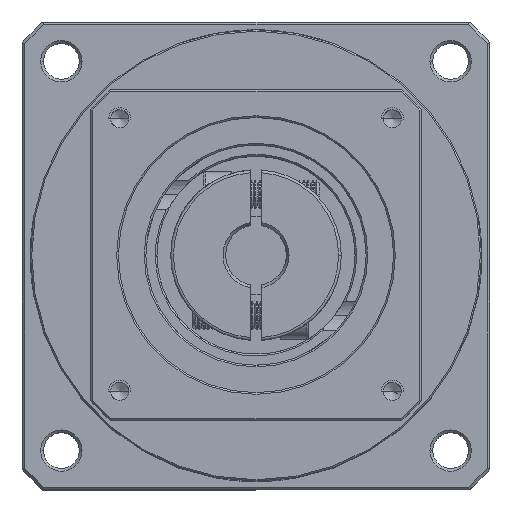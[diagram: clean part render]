
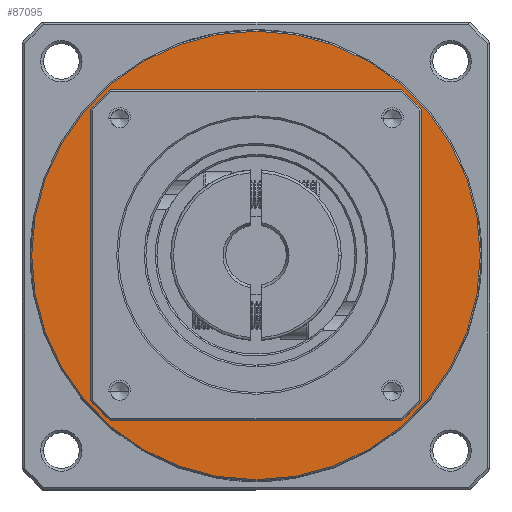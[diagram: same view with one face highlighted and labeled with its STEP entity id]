
A CAD part, top view. The second image highlights one B-rep face of the part: STEP entity #87095.
In plain terms, the highlighted planar face has unit normal (0, 0, 1).
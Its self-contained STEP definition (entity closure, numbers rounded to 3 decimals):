
#3226 = ORIENTED_EDGE ( 'NONE', *, *, #34999, .F. ) ;
#6117 = AXIS2_PLACEMENT_3D ( 'NONE', #45598, #124109, #75190 ) ;
#6891 = AXIS2_PLACEMENT_3D ( 'NONE', #99197, #32454, #31189 ) ;
#10994 = AXIS2_PLACEMENT_3D ( 'NONE', #52940, #102498, #43996 ) ;
#13255 = FACE_BOUND ( 'NONE', #42411, .T. ) ;
#19882 = CIRCLE ( 'NONE', #6891, 40.75 ) ;
#20213 = DIRECTION ( 'NONE',  ( 0., 0., 1. ) ) ;
#24138 = EDGE_CURVE ( 'NONE', #104784, #74092, #25481, .T. ) ;
#25481 = CIRCLE ( 'NONE', #6117, 30. ) ;
#31189 = DIRECTION ( 'NONE',  ( 1., 0., 0. ) ) ;
#31413 = VERTEX_POINT ( 'NONE', #40224 ) ;
#32454 = DIRECTION ( 'NONE',  ( 0., 0., 1. ) ) ;
#32778 = CARTESIAN_POINT ( 'NONE',  ( -40.392, 62.96, -68.053 ) ) ;
#34999 = EDGE_CURVE ( 'NONE', #74092, #104784, #57935, .T. ) ;
#40224 = CARTESIAN_POINT ( 'NONE',  ( 0.358, 62.96, -68.053 ) ) ;
#40232 = VERTEX_POINT ( 'NONE', #55388 ) ;
#40847 = EDGE_CURVE ( 'NONE', #31413, #40232, #19882, .T. ) ;
#42060 = ORIENTED_EDGE ( 'NONE', *, *, #24138, .F. ) ;
#42411 = EDGE_LOOP ( 'NONE', ( #3226, #42060 ) ) ;
#43996 = DIRECTION ( 'NONE',  ( 1., 0., 0. ) ) ;
#45598 = CARTESIAN_POINT ( 'NONE',  ( -40.392, 62.96, -68.053 ) ) ;
#52940 = CARTESIAN_POINT ( 'NONE',  ( -40.392, 62.96, -68.053 ) ) ;
#55388 = CARTESIAN_POINT ( 'NONE',  ( -81.142, 62.96, -68.053 ) ) ;
#57935 = CIRCLE ( 'NONE', #10994, 30. ) ;
#59841 = EDGE_CURVE ( 'NONE', #40232, #31413, #94050, .T. ) ;
#60366 = CARTESIAN_POINT ( 'NONE',  ( -10.392, 62.96, -68.053 ) ) ;
#61617 = ORIENTED_EDGE ( 'NONE', *, *, #40847, .T. ) ;
#62723 = DIRECTION ( 'NONE',  ( 1., 0., 0. ) ) ;
#74092 = VERTEX_POINT ( 'NONE', #109935 ) ;
#75190 = DIRECTION ( 'NONE',  ( 1., 0., 0. ) ) ;
#87095 = ADVANCED_FACE ( 'NONE', ( #13255, #108055 ), #120717, .T. ) ;
#89080 = DIRECTION ( 'NONE',  ( 1., 0., 0. ) ) ;
#94050 = CIRCLE ( 'NONE', #107135, 40.75 ) ;
#99197 = CARTESIAN_POINT ( 'NONE',  ( -40.392, 62.96, -68.053 ) ) ;
#102030 = EDGE_LOOP ( 'NONE', ( #105756, #61617 ) ) ;
#102498 = DIRECTION ( 'NONE',  ( 0., 0., 1. ) ) ;
#104184 = AXIS2_PLACEMENT_3D ( 'NONE', #32778, #121561, #62723 ) ;
#104784 = VERTEX_POINT ( 'NONE', #60366 ) ;
#105756 = ORIENTED_EDGE ( 'NONE', *, *, #59841, .T. ) ;
#107135 = AXIS2_PLACEMENT_3D ( 'NONE', #116339, #20213, #89080 ) ;
#108055 = FACE_OUTER_BOUND ( 'NONE', #102030, .T. ) ;
#109935 = CARTESIAN_POINT ( 'NONE',  ( -70.392, 62.96, -68.053 ) ) ;
#116339 = CARTESIAN_POINT ( 'NONE',  ( -40.392, 62.96, -68.053 ) ) ;
#120717 = PLANE ( 'NONE',  #104184 ) ;
#121561 = DIRECTION ( 'NONE',  ( 0., 0., 1. ) ) ;
#124109 = DIRECTION ( 'NONE',  ( 0., 0., 1. ) ) ;
